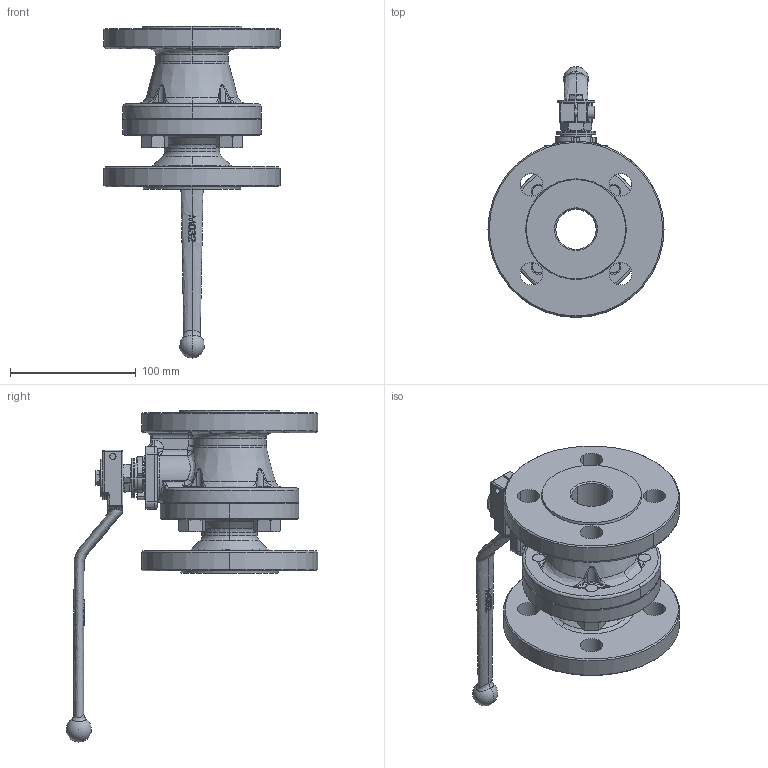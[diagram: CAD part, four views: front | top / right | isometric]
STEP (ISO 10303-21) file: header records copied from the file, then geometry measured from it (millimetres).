
FILE_DESCRIPTION (( 'STEP AP214' ), '1' );
FILE_NAME ('0540032 con maneta.STEP', '2016-10-06T16:32:49', ( '' ), ( '' ), 'SwSTEP 2.0', 'SolidWorks 2016', '' );
FILE_SCHEMA (( 'AUTOMOTIVE_DESIGN' ));
Length unit declared in the file: millimetre
Products named in the file (19): DIN 934 - M12_DIN 934 - M12; STOP32H; 5130_17; EPI32Q; DIN 912 - M6 x 16_DIN 912 - M6 x 16; DIN 933 - M6 x 12_DIN 933 - M6 x 12; 0540032L; SM12351212; M032; 5130_07; 22x16x3,5_Comprimida; 5130-10-1; 0540032C; JE32FV (22x16x1); 0540032 con maneta; DIN 2093 - B31,5_comprimido; 5230_46; DIN 6325 - Ø5x16; 200032_41
Assembly tree (27 placements, depth 2):
  0540032 con maneta
    0540032C
    0540032L
    EPI32Q
    M032
    5130_17
    DIN 933 - M6 x 12_DIN 933 - M6 x 12
    SM12351212  x4
    DIN 934 - M12_DIN 934 - M12  x4
    DIN 912 - M6 x 16_DIN 912 - M6 x 16
    22x16x3,5_Comprimida  x2
    5130-10-1
    JE32FV (22x16x1)
    STOP32H
    200032_41
    DIN 2093 - B31,5_comprimido  x2
    5230_46
    5130_07
    DIN 6325 - Ø5x16  x2
Bounding box: 140 x 199.8 x 264 mm (x, y, z)
Volume: 859996.6 mm3; surface area: 193948.7 mm2
Topology: 27 solids, 27 shells, 910 faces, 2185 edges, 1318 vertices
Faces by surface type: cylinder 293, plane 231, bspline 171, cone 151, torus 42, sphere 22
Entity records: 39266 total; most frequent: CARTESIAN_POINT 20888, ORIENTED_EDGE 3764, DIRECTION 3393, EDGE_CURVE 1882, AXIS2_PLACEMENT_3D 1387, VERTEX_POINT 1159, EDGE_LOOP 873, FACE_OUTER_BOUND 780
